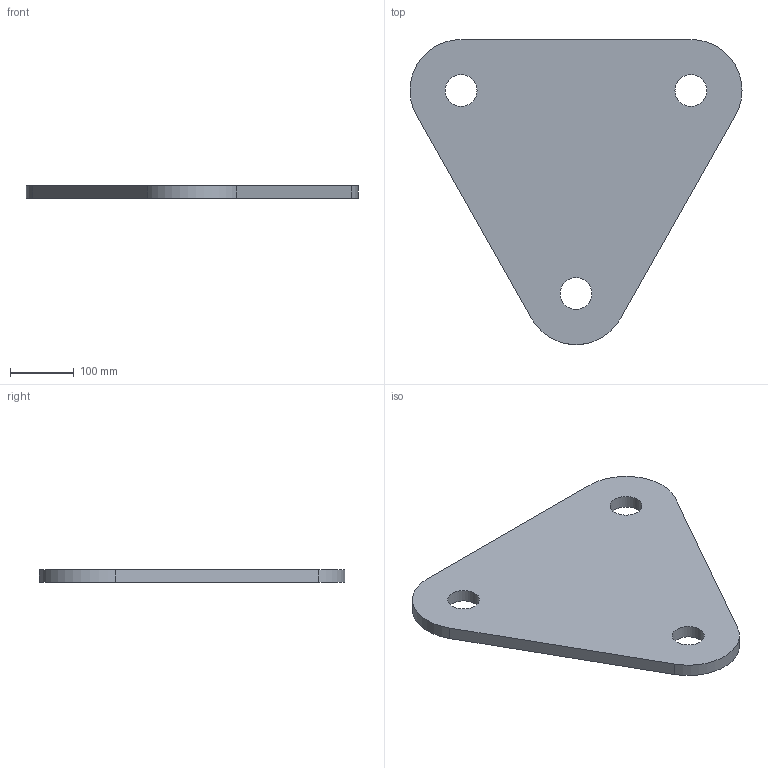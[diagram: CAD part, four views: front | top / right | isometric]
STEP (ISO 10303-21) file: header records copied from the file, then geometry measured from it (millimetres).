
FILE_DESCRIPTION(/* description */ (''),/* implementation_level */ '2;1');
FILE_NAME(/* name */ 'Side Plate.step',/* time_stamp */ '2026-10-06T11:27:30+05:30',/* author */ (''),/* organization */ (''),/* preprocessor_version */ 'ST-DEVELOPER v20.2',/* originating_system */ 'Autodesk Translation Framework v15.15.0.0',/* authorisation */ '');
FILE_SCHEMA (('AUTOMOTIVE_DESIGN { 1 0 10303 214 3 1 1 }'));
Length unit declared in the file: millimetre
Products named in the file (1): 2026-10-06-11-26-34-484
Bounding box: 520 x 477.74 x 20 mm (x, y, z)
Volume: 3174424.1 mm3; surface area: 358736.7 mm2
Topology: 1 solids, 1 shells, 11 faces, 27 edges, 18 vertices
Faces by surface type: cylinder 6, plane 5
Full cylindrical faces by diameter (mm): 50 x3
Entity records: 378 total; most frequent: DIRECTION 63, CARTESIAN_POINT 57, ORIENTED_EDGE 54, EDGE_CURVE 27, AXIS2_PLACEMENT_3D 24, VERTEX_POINT 18, EDGE_LOOP 17, LINE 15
